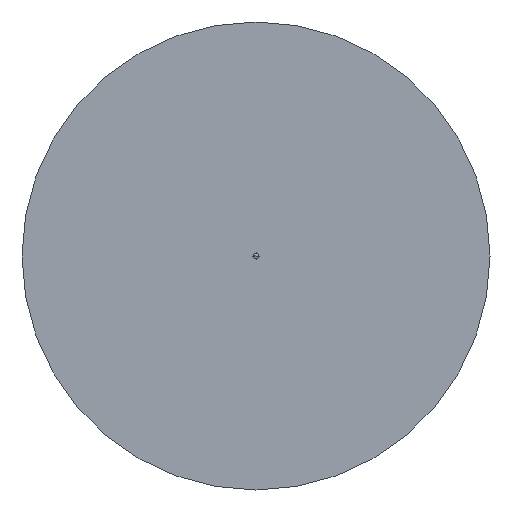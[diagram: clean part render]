
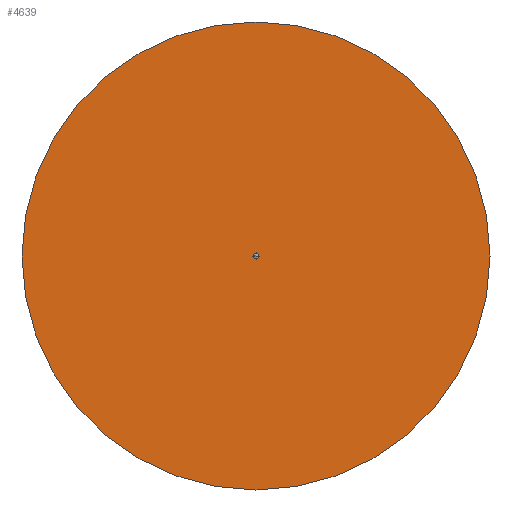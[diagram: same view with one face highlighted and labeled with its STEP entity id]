
A CAD part, front view. The second image highlights one B-rep face of the part: STEP entity #4639.
In plain terms, the highlighted planar face has unit normal (0, -1, 0).
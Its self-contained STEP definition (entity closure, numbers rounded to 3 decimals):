
#3419=CARTESIAN_POINT('',(70.,-27.5,0.0));
#3420=VERTEX_POINT('',#3419);
#3436=CARTESIAN_POINT('',(-70.,-27.5,0.));
#3437=VERTEX_POINT('',#3436);
#3444=CARTESIAN_POINT('',(0.0,-27.5,0.0));
#3445=DIRECTION('',(0.0,-1.0,0.0));
#3446=DIRECTION('',(1.0,0.0,0.0));
#3447=AXIS2_PLACEMENT_3D('',#3444,#3445,#3446);
#3448=CIRCLE('',#3447,70.);
#3449=EDGE_CURVE('',#3420,#3437,#3448,.T.);
#3970=CARTESIAN_POINT('',(0.9,-27.5,0.0));
#3971=VERTEX_POINT('',#3970);
#3987=CARTESIAN_POINT('',(-0.9,-27.5,0.));
#3988=VERTEX_POINT('',#3987);
#3995=CARTESIAN_POINT('',(0.0,-27.5,0.0));
#3996=DIRECTION('',(0.0,-1.0,0.0));
#3997=DIRECTION('',(1.0,0.0,0.0));
#3998=AXIS2_PLACEMENT_3D('',#3995,#3996,#3997);
#3999=CIRCLE('',#3998,0.9);
#4000=EDGE_CURVE('',#3988,#3971,#3999,.T.);
#4219=CARTESIAN_POINT('',(0.0,-27.5,0.0));
#4220=DIRECTION('',(0.0,-1.0,0.0));
#4221=DIRECTION('',(1.0,0.0,0.0));
#4222=AXIS2_PLACEMENT_3D('',#4219,#4220,#4221);
#4223=CIRCLE('',#4222,0.9);
#4224=EDGE_CURVE('',#3971,#3988,#4223,.T.);
#4614=CARTESIAN_POINT('',(0.0,-27.5,0.0));
#4615=DIRECTION('',(0.0,-1.0,0.0));
#4616=DIRECTION('',(1.0,0.0,0.0));
#4617=AXIS2_PLACEMENT_3D('',#4614,#4615,#4616);
#4618=CIRCLE('',#4617,70.);
#4619=EDGE_CURVE('',#3437,#3420,#4618,.T.);
#4626=CARTESIAN_POINT('',(35.45,-27.5,0.0));
#4627=DIRECTION('',(0.0,-1.0,0.0));
#4628=DIRECTION('',(0.0,0.0,-1.0));
#4629=AXIS2_PLACEMENT_3D('',#4626,#4627,#4628);
#4630=PLANE('',#4629);
#4631=ORIENTED_EDGE('',*,*,#3449,.T.);
#4632=ORIENTED_EDGE('',*,*,#4619,.T.);
#4633=EDGE_LOOP('',(#4631,#4632));
#4634=FACE_OUTER_BOUND('',#4633,.T.);
#4635=ORIENTED_EDGE('',*,*,#4224,.F.);
#4636=ORIENTED_EDGE('',*,*,#4000,.F.);
#4637=EDGE_LOOP('',(#4635,#4636));
#4638=FACE_BOUND('',#4637,.T.);
#4639=ADVANCED_FACE('',(#4634,#4638),#4630,.T.);
